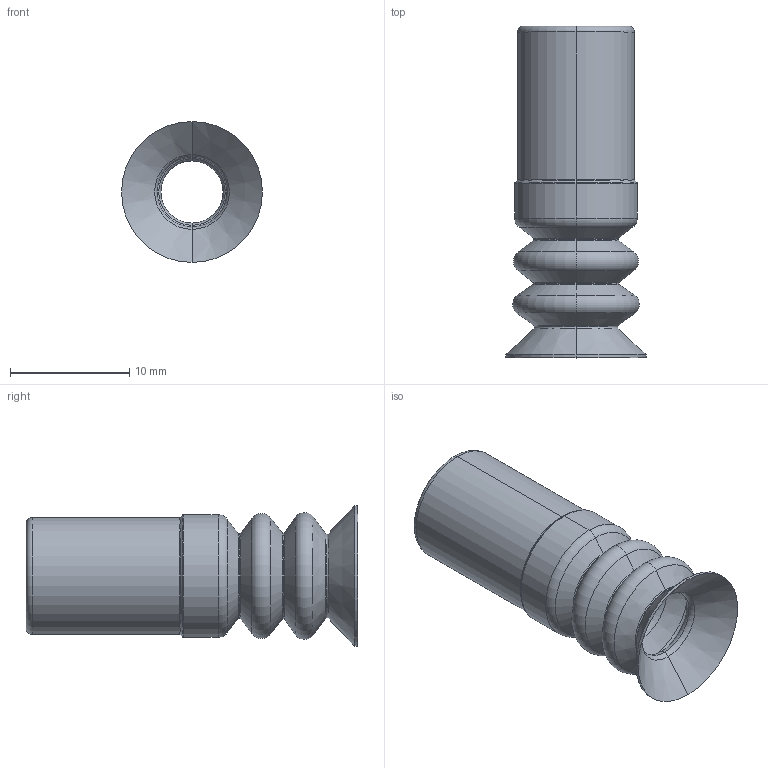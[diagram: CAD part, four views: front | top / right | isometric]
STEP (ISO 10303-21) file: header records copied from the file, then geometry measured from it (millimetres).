
FILE_DESCRIPTION (( 'STEP AP203' ), '1' );
FILE_NAME ('8M_12--A.STEP', '2017-05-19T10:00:01', ( '' ), ( '' ), 'SwSTEP 2.0', 'SolidWorks 2016', '' );
FILE_SCHEMA (( 'CONFIG_CONTROL_DESIGN' ));
Length unit declared in the file: millimetre
Products named in the file (1): 8M_12--A
Bounding box: 11.8 x 27.8 x 11.8 mm (x, y, z)
Volume: 1074.7 mm3; surface area: 1719 mm2
Topology: 1 solids, 1 shells, 77 faces, 154 edges, 78 vertices
Faces by surface type: torus 42, cone 26, cylinder 8, plane 1
Entity records: 2057 total; most frequent: DIRECTION 430, CARTESIAN_POINT 310, ORIENTED_EDGE 308, AXIS2_PLACEMENT_3D 198, EDGE_CURVE 154, CIRCLE 120, EDGE_LOOP 78, VERTEX_POINT 78
